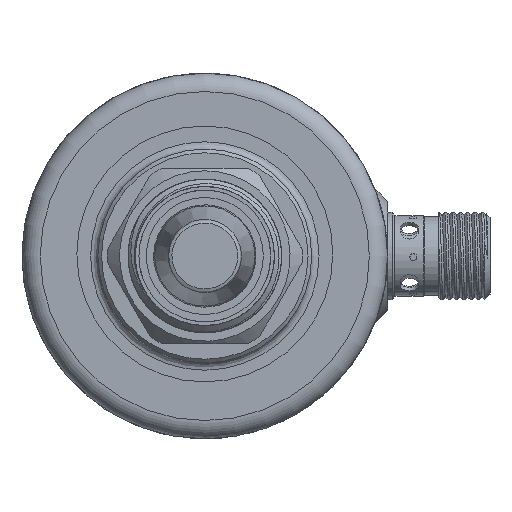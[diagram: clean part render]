
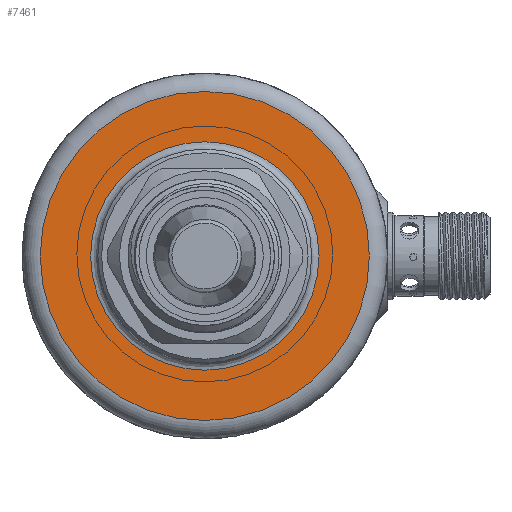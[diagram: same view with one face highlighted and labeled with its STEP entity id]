
A CAD part, front view. The second image highlights one B-rep face of the part: STEP entity #7461.
In plain terms, the highlighted planar face has unit normal (0, -1, 0) as drawn and (-1, 0, 0) by its records, which use the part's own axes.
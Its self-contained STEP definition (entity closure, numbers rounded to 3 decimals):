
#77 = VERTEX_POINT ( 'NONE', #1063 ) ;
#115 = CIRCLE ( 'NONE', #2120, 15.62 ) ;
#486 = CARTESIAN_POINT ( 'NONE',  ( 41., 0., -0.275 ) ) ;
#858 = ORIENTED_EDGE ( 'NONE', *, *, #13556, .T. ) ;
#1063 = CARTESIAN_POINT ( 'NONE',  ( 41., 0., -15.895 ) ) ;
#1619 = CARTESIAN_POINT ( 'NONE',  ( 41., 0., -0.275 ) ) ;
#1688 = DIRECTION ( 'NONE',  ( -1., 0., 0. ) ) ;
#1902 = AXIS2_PLACEMENT_3D ( 'NONE', #1619, #1688, #3587 ) ;
#2120 = AXIS2_PLACEMENT_3D ( 'NONE', #9597, #11790, #8695 ) ;
#2259 = VERTEX_POINT ( 'NONE', #4284 ) ;
#3587 = DIRECTION ( 'NONE',  ( 0., 0., -1. ) ) ;
#3661 = EDGE_LOOP ( 'NONE', ( #5289 ) ) ;
#4284 = CARTESIAN_POINT ( 'NONE',  ( 41., 0., -22.775 ) ) ;
#4910 = DIRECTION ( 'NONE',  ( 0., 0., -1. ) ) ;
#5289 = ORIENTED_EDGE ( 'NONE', *, *, #11273, .T. ) ;
#7461 = ADVANCED_FACE ( 'NONE', ( #8231, #10403 ), #8028, .F. ) ;
#8028 = PLANE ( 'NONE',  #11257 ) ;
#8231 = FACE_BOUND ( 'NONE', #11919, .T. ) ;
#8695 = DIRECTION ( 'NONE',  ( 0., 0., -1. ) ) ;
#9597 = CARTESIAN_POINT ( 'NONE',  ( 41., 0., -0.275 ) ) ;
#10403 = FACE_OUTER_BOUND ( 'NONE', #3661, .T. ) ;
#10451 = CIRCLE ( 'NONE', #1902, 22.5 ) ;
#11257 = AXIS2_PLACEMENT_3D ( 'NONE', #486, #13365, #4910 ) ;
#11273 = EDGE_CURVE ( 'NONE', #2259, #2259, #10451, .T. ) ;
#11790 = DIRECTION ( 'NONE',  ( 1., 0., 0. ) ) ;
#11919 = EDGE_LOOP ( 'NONE', ( #858 ) ) ;
#13365 = DIRECTION ( 'NONE',  ( 1., 0., 0. ) ) ;
#13556 = EDGE_CURVE ( 'NONE', #77, #77, #115, .T. ) ;
